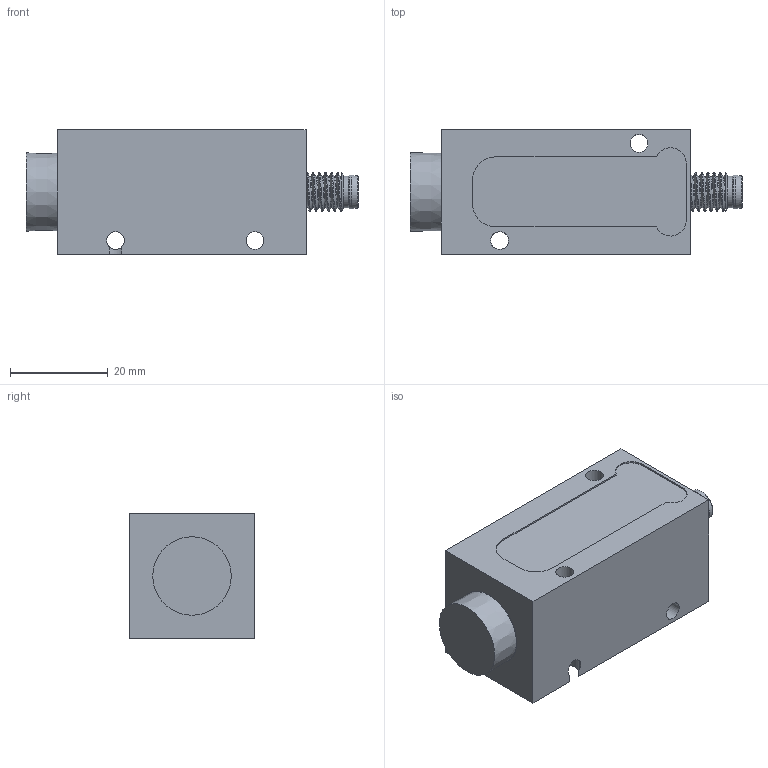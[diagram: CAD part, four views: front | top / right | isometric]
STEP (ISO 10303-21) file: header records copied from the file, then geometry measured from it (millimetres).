
FILE_DESCRIPTION(/* description */ (''),/* implementation_level */ '2;1');
FILE_NAME(/* name */ 'PEBX-EE-CUST-ASSY-WRAP.step',/* time_stamp */ '2024-06-28T14:58:51-05:00',/* author */ (''),/* organization */ (''),/* preprocessor_version */ 'ST-DEVELOPER v20',/* originating_system */ 'Autodesk Translation Framework v13.14.0.145',/* authorisation */ '');
FILE_SCHEMA (('AUTOMOTIVE_DESIGN { 1 0 10303 214 3 1 1 }'));
Length unit declared in the file: millimetre
Products named in the file (1): PEBX-EE-CUST-ASSY-WRAP
Bounding box: 67.76 x 25.4 x 25.4 mm (x, y, z)
Volume: 32771.5 mm3; surface area: 9069.3 mm2
Topology: 1 solids, 1 shells, 826 faces, 2314 edges, 1539 vertices
Faces by surface type: bspline 592, plane 166, cylinder 48, cone 7, torus 7, sphere 6
Full cylindrical faces by diameter (mm): 0.7 x6, 3.658 x4, 6.446 x2, 6.5 x1, 6.9 x1, 7.866 x3, 8.331 x1, 16.002 x1
Entity records: 29630 total; most frequent: CARTESIAN_POINT 13895, ORIENTED_EDGE 4616, EDGE_CURVE 2308, DIRECTION 1684, VERTEX_POINT 1539, LINE 946, VECTOR 946, EDGE_LOOP 889
